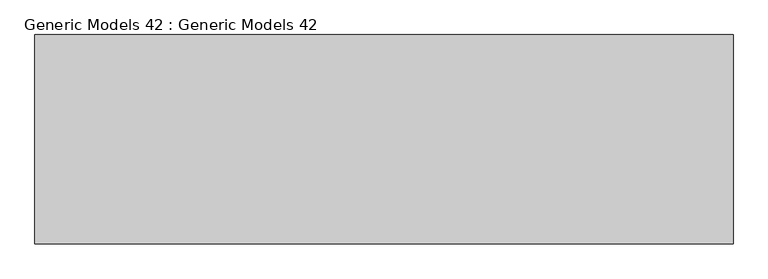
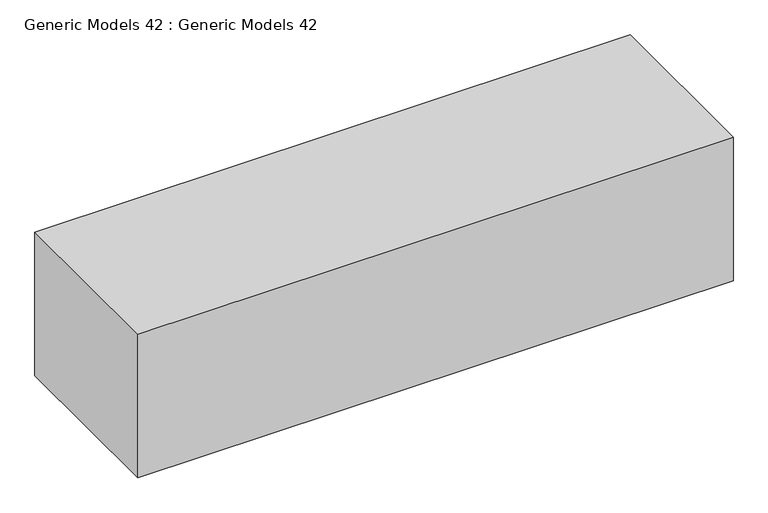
"""IFC4 building model written with IfcOpenShell, lengths in millimetres: proxy geometry, Generic Models 42 : Generic Models 42."""

import ifcopenshell
import ifcopenshell.guid

model = None  # the IFC model being written
_history = None  # IfcOwnerHistory: only IFC2X3 demands one
_inside = {}  # id of a spatial element -> (the spatial element, [elements in it])
_under = {}  # id of a project, library or spatial element -> (it, [spatial elements below it])
_declared = {}  # id of a project -> (the project, [libraries it declares])
_typed = {}  # id of a type object -> (the type object, [elements of that type])
_made_of = {}  # id of a material, layer set ... -> (it, [elements and type objects made of it])


def new_model(schema):
    """Start an empty IFC model of exactly this schema.

    Asked for "IFC4X3", IfcOpenShell would pick the latest addendum, in which some entities
    have other attributes; the version numbers below select the first issue.
    IFC2X3 requires an IfcOwnerHistory on every rooted entity: one is made here for all.
    """
    global model, _history
    if schema == "IFC4X3":
        model = ifcopenshell.file(schema_version=(4, 3, 0, 0))
    else:
        model = ifcopenshell.file(schema=schema)
    _inside.clear()
    _under.clear()
    _declared.clear()
    _typed.clear()
    _made_of.clear()
    _history = None
    if model.schema == "IFC2X3":
        org = make("IfcOrganization", Name="unknown")
        user = make(
            "IfcPersonAndOrganization",
            ThePerson=make("IfcPerson", FamilyName="unknown"),
            TheOrganization=org,
        )
        app = make(
            "IfcApplication",
            ApplicationDeveloper=org,
            Version="unknown",
            ApplicationFullName="unknown",
            ApplicationIdentifier="unknown",
        )
        _history = make(
            "IfcOwnerHistory",
            OwningUser=user,
            OwningApplication=app,
            ChangeAction="ADDED",
            CreationDate=0,
        )
    return model


def make(cls, **values):
    """One entity of the class cls with the attributes given. An attribute that is None is left unset."""
    return model.create_entity(
        cls, **{name: value for name, value in values.items() if value is not None}
    )


def rooted(cls, **values):
    """An entity with a GlobalId (a new one), such as an element, a storey or a relation."""
    return make(cls, GlobalId=ifcopenshell.guid.new(), OwnerHistory=_history, **values)


def si_unit(unit_type, name, prefix=None):
    """IfcSIUnit, for example si_unit("LENGTHUNIT", "METRE", prefix="MILLI")."""
    return make("IfcSIUnit", UnitType=unit_type, Prefix=prefix, Name=name)


def assignment(units):
    """IfcUnitAssignment: the units of a project."""
    return None if units is None else make("IfcUnitAssignment", Units=units)


def point(xyz):
    """IfcCartesianPoint."""
    return None if xyz is None else make("IfcCartesianPoint", Coordinates=xyz)


def direction(xyz):
    """IfcDirection."""
    return None if xyz is None else make("IfcDirection", DirectionRatios=xyz)


def frame(location, z_axis=None, x_axis=None):
    """IfcAxis2Placement3D, a coordinate frame: its origin and axes. An axis left out is left unset."""
    return make(
        "IfcAxis2Placement3D",
        Location=point(location),
        Axis=direction(z_axis),
        RefDirection=direction(x_axis),
    )


def origin():
    """The frame at (0, 0, 0) with its axes left unset."""
    return frame((0.0, 0.0, 0.0))


def place(relative_to, where):
    """IfcLocalPlacement: puts the frame where relative to a parent placement (None: the world)."""
    return make(
        "IfcLocalPlacement", PlacementRelTo=relative_to, RelativePlacement=where
    )


def context(
    kind, dimensions, precision=None, world=None, true_north=None, identifier=None
):
    """IfcGeometricRepresentationContext, for example the 3D "Model" context."""
    return make(
        "IfcGeometricRepresentationContext",
        ContextIdentifier=identifier,
        ContextType=kind,
        CoordinateSpaceDimension=dimensions,
        Precision=precision,
        WorldCoordinateSystem=world,
        TrueNorth=true_north,
    )


def project(units=None, contexts=None):
    """IfcProject with its units and contexts."""
    return rooted(
        "IfcProject",
        Name="project",
        RepresentationContexts=contexts,
        UnitsInContext=assignment(units),
    )


def spatial(cls, under=None, at=None, **own):
    """A site, building, storey or space (cls), placed at a placement, below another one or the project."""
    s = rooted(cls, ObjectPlacement=at, **own)
    if under is not None:
        _under.setdefault(under.id(), (under, []))[1].append(s)
    return s


def polyline(points):
    """IfcPolyline through the points."""
    return make("IfcPolyline", Points=[point(p) for p in points])


def outline(outer, holes=None, kind="AREA"):
    """IfcArbitraryClosedProfileDef: a profile drawn as a closed curve; with holes, ...WithVoids."""
    if holes is None:
        return make("IfcArbitraryClosedProfileDef", ProfileType=kind, OuterCurve=outer)
    return make(
        "IfcArbitraryProfileDefWithVoids",
        ProfileType=kind,
        OuterCurve=outer,
        InnerCurves=holes,
    )


def extrude(swept, where, along, depth):
    """IfcExtrudedAreaSolid: the profile swept, set in the frame where, extruded along a direction by depth."""
    return make(
        "IfcExtrudedAreaSolid",
        SweptArea=swept,
        Position=where,
        ExtrudedDirection=direction(along),
        Depth=depth,
    )


def shape(context_of_items, identifier, shape_type, items):
    """IfcShapeRepresentation: the items that make up one representation, for example the "Body"."""
    return make(
        "IfcShapeRepresentation",
        ContextOfItems=context_of_items,
        RepresentationIdentifier=identifier,
        RepresentationType=shape_type,
        Items=items,
    )


def source(mapping_origin, context_of_items, identifier, shape_type, items):
    """IfcRepresentationMap: a shape defined once, which mapped items show again and again."""
    return make(
        "IfcRepresentationMap",
        MappingOrigin=mapping_origin,
        MappedRepresentation=shape(context_of_items, identifier, shape_type, items),
    )


def transform(
    local_origin,
    x_axis=None,
    y_axis=None,
    z_axis=None,
    scale=None,
    scale2=None,
    scale3=None,
    uniform=True,
):
    """IfcCartesianTransformationOperator3D, or its non-uniform kind. x_axis, y_axis, z_axis: its Axis1, 2, 3."""
    if uniform:
        return make(
            "IfcCartesianTransformationOperator3D",
            Axis1=direction(x_axis),
            Axis2=direction(y_axis),
            LocalOrigin=point(local_origin),
            Scale=scale,
            Axis3=direction(z_axis),
        )
    return make(
        "IfcCartesianTransformationOperator3DnonUniform",
        Axis1=direction(x_axis),
        Axis2=direction(y_axis),
        LocalOrigin=point(local_origin),
        Scale=scale,
        Axis3=direction(z_axis),
        Scale2=scale2,
        Scale3=scale3,
    )


def mapped(mapping_source, mapping_target):
    """IfcMappedItem: shows the shape of a source again, moved by a transform."""
    return make(
        "IfcMappedItem", MappingSource=mapping_source, MappingTarget=mapping_target
    )


def made_of(thing, what):
    """Note that an element or type object is made of a material, layer set ...; save() writes the relation."""
    if what is not None:
        _made_of.setdefault(what.id(), (what, []))[1].append(thing)
    return thing


def element(
    cls,
    number,
    at=None,
    inside=None,
    cuts=None,
    type_object=None,
    material=None,
    context=None,
    identifier="Body",
    shape_type=None,
    held_by="IfcProductDefinitionShape",
    body=None,
    shapes=None,
    **own,
):
    """One element of the class cls, such as IfcWall. Its Tag is "e" and its number.

    at: its placement. inside: the storey or other place that contains it. cuts: it is an
    opening in that element (IfcRelVoidsElement). A single representation is given by context,
    identifier, shape_type and body (its items); several are given by shapes. held_by: the class
    of the entity that holds the representations. save() writes the other relations.
    """
    e = rooted(cls, Tag="e%d" % number, ObjectPlacement=at, **own)
    if body is not None:
        shapes = [shape(context, identifier, shape_type, body)]
    if shapes is not None:
        e.Representation = make(held_by, Representations=shapes)
    if inside is not None:
        _inside.setdefault(inside.id(), (inside, []))[1].append(e)
    if cuts is not None:
        rooted(
            "IfcRelVoidsElement", RelatingBuildingElement=cuts, RelatedOpeningElement=e
        )
    if type_object is not None:
        _typed.setdefault(type_object.id(), (type_object, []))[1].append(e)
    return made_of(e, material)


def aggregate(whole, parts):
    """IfcRelAggregates: a whole, such as a stair, and the parts it consists of."""
    return rooted("IfcRelAggregates", RelatingObject=whole, RelatedObjects=parts)


def save(model, path):
    """Write the relations noted so far, then the file.

    IfcRelAggregates (storeys below a building ...), IfcRelContainedInSpatialStructure (elements
    in a storey), IfcRelDefinesByType, IfcRelAssociatesMaterial and IfcRelDeclares: one each for
    every whole, place, type object, material and project.
    """
    for whole, parts in _under.values():
        aggregate(whole, parts)
    for where, things in _inside.values():
        rooted(
            "IfcRelContainedInSpatialStructure",
            RelatedElements=things,
            RelatingStructure=where,
        )
    for kind, things in _typed.values():
        rooted("IfcRelDefinesByType", RelatedObjects=things, RelatingType=kind)
    for what, things in _made_of.values():
        rooted("IfcRelAssociatesMaterial", RelatedObjects=things, RelatingMaterial=what)
    for by, libraries in _declared.values():
        rooted("IfcRelDeclares", RelatingContext=by, RelatedDefinitions=libraries)
    model.write(path)


def generic_models_42_generic_models_42_749ef1b9(model_context):
    return source(origin(), model_context, "Body", "SweptSolid", [
        extrude(outline(polyline([(87588.7972847, 21213.0934632), (88928.3334259, 21213.0934632), (88928.3334259, 20811.7754811), (87588.7972847, 20811.7754811), (87588.7972847, 21213.0934632)])), frame((0.0, 0.0, 108.5363237), z_axis=(0.0, 0.0, 1.0), x_axis=(1.0, 0.0, 0.0)), (0.0, 0.0, 1.0), 341.4636763),
    ])


if __name__ == "__main__":
    model = new_model("IFC4")
    model_context = context("Model", 3, world=origin())
    ifc_project = project(units=[si_unit("LENGTHUNIT", "METRE", prefix="MILLI")], contexts=[model_context])
    site = spatial("IfcSite", under=ifc_project)
    building = spatial("IfcBuilding", under=site)
    placement = place(None, origin())
    generic_models_42_generic_models_42_shape = generic_models_42_generic_models_42_749ef1b9(model_context)
    element("IfcBuildingElementProxy", 1, Name="Generic Models 42 : Generic Models 42", ObjectType="Generic Models 42 : Generic Models 42", at=placement, inside=building, context=model_context, shape_type="MappedRepresentation", body=[
        mapped(generic_models_42_generic_models_42_shape, transform((0.0, 0.0, 0.0), x_axis=(1.0, 0.0, 0.0), y_axis=(0.0, 1.0, 0.0), z_axis=(0.0, 0.0, 1.0))),
    ])
    save(model, "model.ifc")
